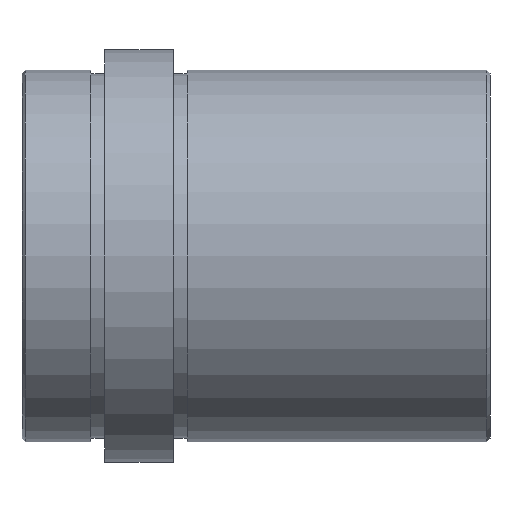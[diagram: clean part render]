
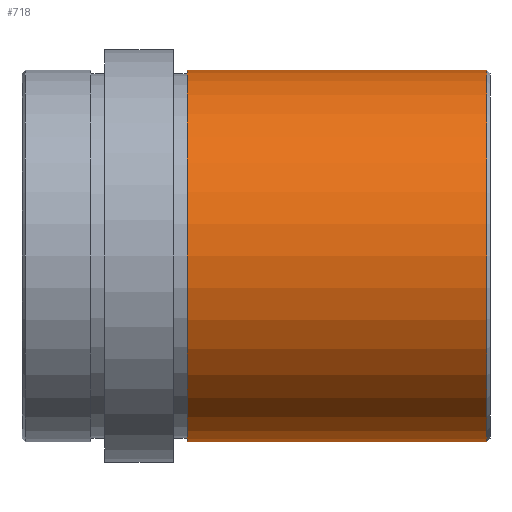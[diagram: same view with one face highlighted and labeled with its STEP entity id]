
A CAD part, front view. The second image highlights one B-rep face of the part: STEP entity #718.
In plain terms, the highlighted cylindrical face has radius 27 mm (diameter 54 mm), a partial arc.
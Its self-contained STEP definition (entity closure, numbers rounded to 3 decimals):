
#8 = CARTESIAN_POINT ( 'NONE',  ( 24., 0., 27. ) ) ;
#9 = LINE ( 'NONE', #56, #552 ) ;
#40 = VERTEX_POINT ( 'NONE', #115 ) ;
#44 = EDGE_LOOP ( 'NONE', ( #160, #407, #446, #460 ) ) ;
#56 = CARTESIAN_POINT ( 'NONE',  ( 75., 0., -27. ) ) ;
#62 = CARTESIAN_POINT ( 'NONE',  ( 67.5, 0., 0. ) ) ;
#65 = DIRECTION ( 'NONE',  ( 0., 0., 1. ) ) ;
#73 = CARTESIAN_POINT ( 'NONE',  ( 67.5, 0., -27. ) ) ;
#94 = CARTESIAN_POINT ( 'NONE',  ( 75., 0., 27. ) ) ;
#115 = CARTESIAN_POINT ( 'NONE',  ( 24., 0., -27. ) ) ;
#142 = CARTESIAN_POINT ( 'NONE',  ( 24., 0., 0. ) ) ;
#144 = VERTEX_POINT ( 'NONE', #73 ) ;
#160 = ORIENTED_EDGE ( 'NONE', *, *, #633, .F. ) ;
#183 = DIRECTION ( 'NONE',  ( 0., 0., 1. ) ) ;
#185 = CYLINDRICAL_SURFACE ( 'NONE', #705, 27. ) ;
#221 = FACE_OUTER_BOUND ( 'NONE', #44, .T. ) ;
#244 = LINE ( 'NONE', #94, #522 ) ;
#263 = CARTESIAN_POINT ( 'NONE',  ( 75., 0., 0. ) ) ;
#312 = DIRECTION ( 'NONE',  ( 0., 0., 1. ) ) ;
#371 = DIRECTION ( 'NONE',  ( -1., 0., 0. ) ) ;
#397 = DIRECTION ( 'NONE',  ( -1., 0., 0. ) ) ;
#407 = ORIENTED_EDGE ( 'NONE', *, *, #649, .T. ) ;
#412 = DIRECTION ( 'NONE',  ( -1., 0., 0. ) ) ;
#422 = CARTESIAN_POINT ( 'NONE',  ( 67.5, 0., 27. ) ) ;
#435 = DIRECTION ( 'NONE',  ( -1., 0., 0. ) ) ;
#444 = VERTEX_POINT ( 'NONE', #422 ) ;
#446 = ORIENTED_EDGE ( 'NONE', *, *, #632, .T. ) ;
#460 = ORIENTED_EDGE ( 'NONE', *, *, #644, .F. ) ;
#465 = DIRECTION ( 'NONE',  ( -1., 0., 0. ) ) ;
#495 = VERTEX_POINT ( 'NONE', #8 ) ;
#522 = VECTOR ( 'NONE', #435, 1000. ) ;
#544 = AXIS2_PLACEMENT_3D ( 'NONE', #62, #412, #65 ) ;
#552 = VECTOR ( 'NONE', #397, 1000. ) ;
#570 = CIRCLE ( 'NONE', #544, 27. ) ;
#573 = CIRCLE ( 'NONE', #615, 27. ) ;
#615 = AXIS2_PLACEMENT_3D ( 'NONE', #142, #465, #312 ) ;
#632 = EDGE_CURVE ( 'NONE', #444, #495, #244, .T. ) ;
#633 = EDGE_CURVE ( 'NONE', #144, #40, #9, .T. ) ;
#644 = EDGE_CURVE ( 'NONE', #40, #495, #573, .T. ) ;
#649 = EDGE_CURVE ( 'NONE', #144, #444, #570, .T. ) ;
#705 = AXIS2_PLACEMENT_3D ( 'NONE', #263, #371, #183 ) ;
#718 = ADVANCED_FACE ( 'NONE', ( #221 ), #185, .T. ) ;
